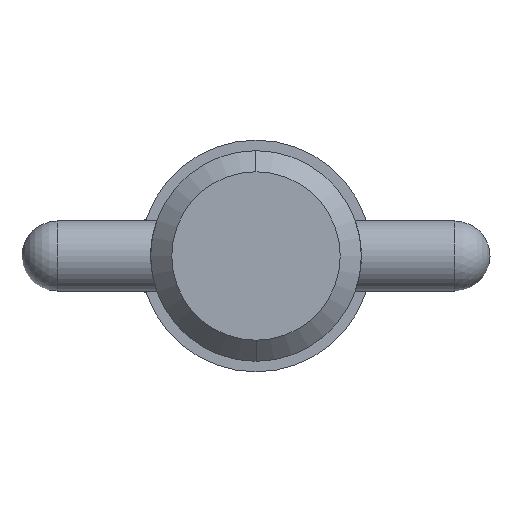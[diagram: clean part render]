
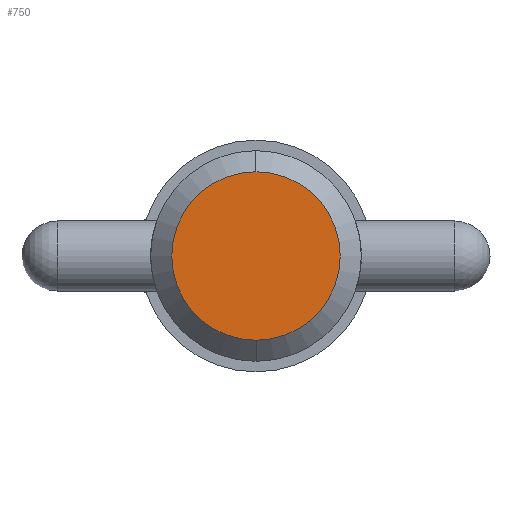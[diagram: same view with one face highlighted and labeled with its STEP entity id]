
A CAD part, left-side view. The second image highlights one B-rep face of the part: STEP entity #750.
In plain terms, the highlighted planar face has unit normal (-1, 0, 0).
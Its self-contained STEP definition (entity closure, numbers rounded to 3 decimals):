
#5 = EDGE_CURVE ( 'NONE', #271, #450, #419, .T. ) ;
#35 = ORIENTED_EDGE ( 'NONE', *, *, #5, .F. ) ;
#114 = CARTESIAN_POINT ( 'NONE',  ( 0., 0., 0. ) ) ;
#120 = CIRCLE ( 'NONE', #693, 5.716 ) ;
#132 = AXIS2_PLACEMENT_3D ( 'NONE', #216, #866, #796 ) ;
#153 = PLANE ( 'NONE',  #643 ) ;
#216 = CARTESIAN_POINT ( 'NONE',  ( 0., 0., 0. ) ) ;
#271 = VERTEX_POINT ( 'NONE', #825 ) ;
#277 = CARTESIAN_POINT ( 'NONE',  ( 0., 0., 5.716 ) ) ;
#412 = DIRECTION ( 'NONE',  ( -1., 0., 0. ) ) ;
#414 = CARTESIAN_POINT ( 'NONE',  ( 0., 0., 0. ) ) ;
#419 = CIRCLE ( 'NONE', #132, 5.716 ) ;
#450 = VERTEX_POINT ( 'NONE', #277 ) ;
#537 = EDGE_CURVE ( 'NONE', #450, #271, #120, .T. ) ;
#643 = AXIS2_PLACEMENT_3D ( 'NONE', #414, #412, #653 ) ;
#653 = DIRECTION ( 'NONE',  ( 0., 0., 1. ) ) ;
#692 = DIRECTION ( 'NONE',  ( 0., 0., -1. ) ) ;
#693 = AXIS2_PLACEMENT_3D ( 'NONE', #114, #868, #692 ) ;
#750 = ADVANCED_FACE ( 'NONE', ( #891 ), #153, .T. ) ;
#796 = DIRECTION ( 'NONE',  ( 0., 0., -1. ) ) ;
#825 = CARTESIAN_POINT ( 'NONE',  ( 0., 0., -5.716 ) ) ;
#866 = DIRECTION ( 'NONE',  ( 1., 0., 0. ) ) ;
#868 = DIRECTION ( 'NONE',  ( 1., 0., 0. ) ) ;
#877 = ORIENTED_EDGE ( 'NONE', *, *, #537, .F. ) ;
#891 = FACE_OUTER_BOUND ( 'NONE', #1008, .T. ) ;
#1008 = EDGE_LOOP ( 'NONE', ( #35, #877 ) ) ;
